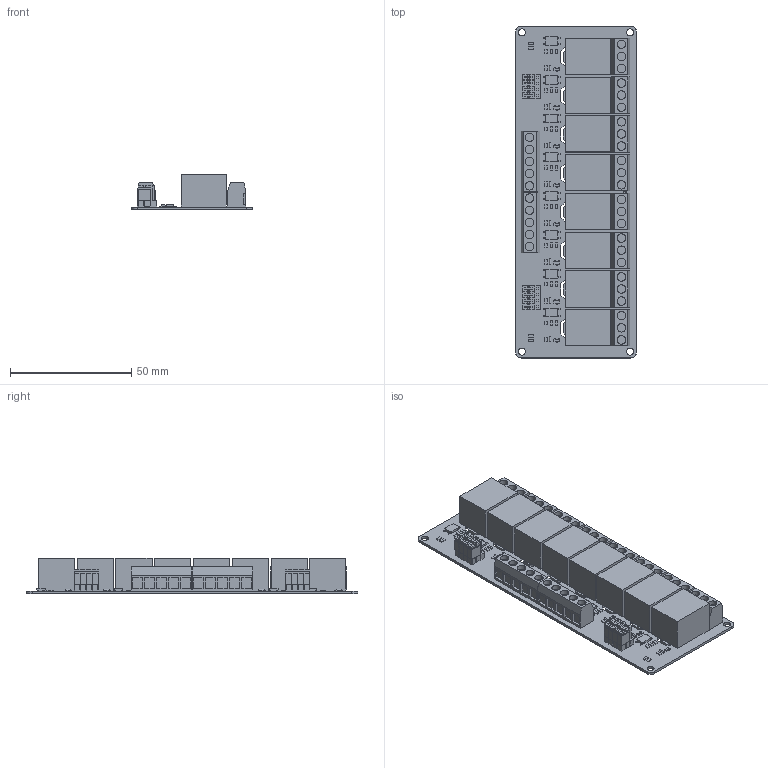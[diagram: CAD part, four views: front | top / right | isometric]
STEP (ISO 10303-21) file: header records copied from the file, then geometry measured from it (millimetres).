
FILE_DESCRIPTION(('CATIA V5 STEP Exchange'),'2;1');
FILE_NAME('X:\XDrive\Homepage\homes\techecke\elektronik\download\8-Kanal_Relais_Modul.stp','2026-03-20T22:18:37+00:00',('none'),('none'),'CATIA Version 5 Release 19 SP 2 (IN-10)','CATIA V5 STEP AP203','none');
FILE_SCHEMA(('CONFIG_CONTROL_DESIGN'));
Products named in the file (1): 8-Kanal Relais Modul
Bounding box: 50 x 137 x 14.6 mm (x, y, z)
Volume: 49554.9 mm3; surface area: 37412.4 mm2
Topology: 152 solids, 152 shells, 2413 faces, 6051 edges, 4034 vertices
Faces by surface type: plane 2317, cylinder 96
Entity records: 65226 total; most frequent: ORIENTED_EDGE 12102, CARTESIAN_POINT 11464, DIRECTION 8807, EDGE_CURVE 6051, VECTOR 5859, LINE 5859, VERTEX_POINT 4034, EDGE_LOOP 2573
